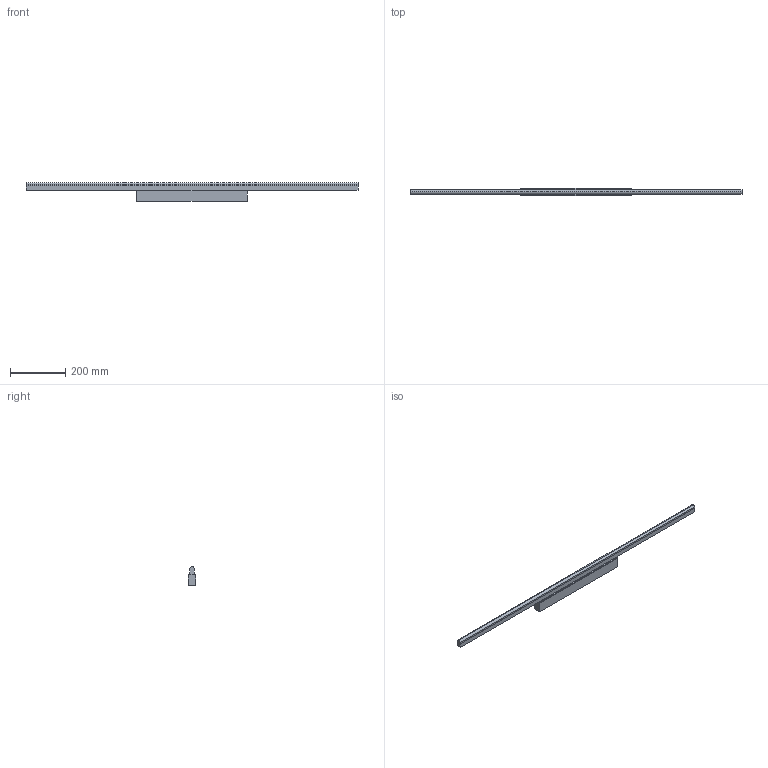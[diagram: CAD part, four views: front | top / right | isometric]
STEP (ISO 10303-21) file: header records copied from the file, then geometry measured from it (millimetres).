
FILE_DESCRIPTION (( 'STEP AP203' ), '1' );
FILE_NAME ('TAB LED 9597 3D MODEL.STEP', '2016-10-04T15:47:48', ( 'Utente' ), ( '' ), 'SwSTEP 2.0', 'SolidWorks 2016', '' );
FILE_SCHEMA (( 'CONFIG_CONTROL_DESIGN' ));
Length unit declared in the file: millimetre
Products named in the file (1): TAB LED 9597 3D MODEL
Bounding box: 1200 x 27.96 x 67.51 mm (x, y, z)
Volume: 917455.5 mm3; surface area: 139795.1 mm2
Topology: 1 solids, 1 shells, 21 faces, 53 edges, 34 vertices
Faces by surface type: plane 17, cylinder 4
Entity records: 700 total; most frequent: CARTESIAN_POINT 109, ORIENTED_EDGE 106, DIRECTION 105, EDGE_CURVE 53, LINE 45, VECTOR 45, VERTEX_POINT 34, AXIS2_PLACEMENT_3D 30
